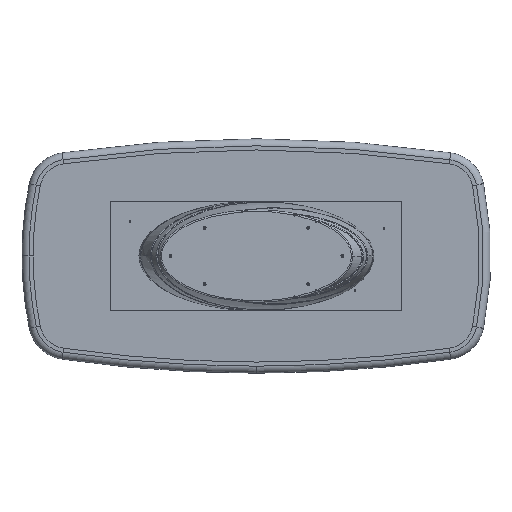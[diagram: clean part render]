
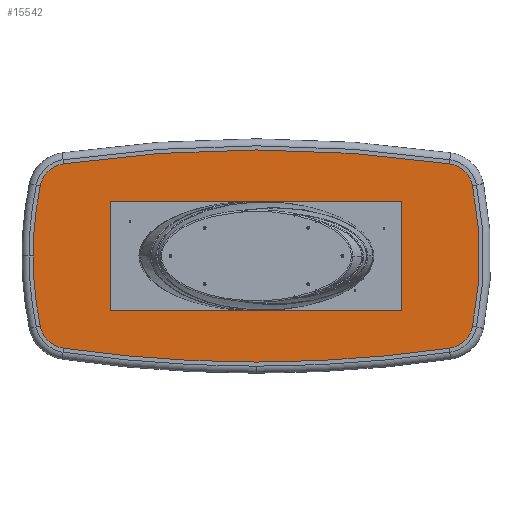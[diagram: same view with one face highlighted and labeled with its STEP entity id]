
A CAD part, front view. The second image highlights one B-rep face of the part: STEP entity #15542.
In plain terms, the highlighted planar face has unit normal (0, -1, 0).
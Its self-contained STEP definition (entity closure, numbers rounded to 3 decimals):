
#647 = DIRECTION ( 'NONE',  ( 0., 1., 0. ) ) ;
#916 = CARTESIAN_POINT ( 'NONE',  ( -645., 40., 0. ) ) ;
#2751 = AXIS2_PLACEMENT_3D ( 'NONE', #27108, #25122, #19395 ) ;
#2790 = CARTESIAN_POINT ( 'NONE',  ( 1106.552, 40., -359.178 ) ) ;
#3054 = DIRECTION ( 'NONE',  ( 0., 0., 1. ) ) ;
#3294 = VERTEX_POINT ( 'NONE', #13138 ) ;
#4020 = EDGE_CURVE ( 'NONE', #28726, #9384, #12694, .T. ) ;
#4664 = CIRCLE ( 'NONE', #26707, 6893. ) ;
#5705 = ORIENTED_EDGE ( 'NONE', *, *, #24886, .F. ) ;
#5882 = VERTEX_POINT ( 'NONE', #31958 ) ;
#5959 = VERTEX_POINT ( 'NONE', #7698 ) ;
#6086 = ORIENTED_EDGE ( 'NONE', *, *, #37110, .F. ) ;
#6197 = EDGE_CURVE ( 'NONE', #3294, #25679, #22787, .T. ) ;
#7210 = DIRECTION ( 'NONE',  ( 0., 0., 1. ) ) ;
#7698 = CARTESIAN_POINT ( 'NONE',  ( 0., 40., -543. ) ) ;
#7790 = VERTEX_POINT ( 'NONE', #30576 ) ;
#8080 = DIRECTION ( 'NONE',  ( 0., 0., 1. ) ) ;
#8511 = VERTEX_POINT ( 'NONE', #25201 ) ;
#9384 = VERTEX_POINT ( 'NONE', #24569 ) ;
#9799 = ORIENTED_EDGE ( 'NONE', *, *, #16134, .F. ) ;
#10028 = DIRECTION ( 'NONE',  ( 0., 0., 1. ) ) ;
#10298 = DIRECTION ( 'NONE',  ( 0., 0., 1. ) ) ;
#10830 = DIRECTION ( 'NONE',  ( 0., 1., 0. ) ) ;
#11153 = CARTESIAN_POINT ( 'NONE',  ( -986.942, 40., 471.979 ) ) ;
#11550 = CARTESIAN_POINT ( 'NONE',  ( -986.942, 40., -471.979 ) ) ;
#11672 = AXIS2_PLACEMENT_3D ( 'NONE', #25669, #19358, #19942 ) ;
#11837 = ORIENTED_EDGE ( 'NONE', *, *, #15139, .F. ) ;
#12662 = ORIENTED_EDGE ( 'NONE', *, *, #21149, .F. ) ;
#12694 = CIRCLE ( 'NONE', #37864, 143. ) ;
#12996 = CARTESIAN_POINT ( 'NONE',  ( -966.467, 40., 330.452 ) ) ;
#13128 = DIRECTION ( 'NONE',  ( 0., 1., 0. ) ) ;
#13138 = CARTESIAN_POINT ( 'NONE',  ( -1106.552, 40., 359.178 ) ) ;
#14003 = ORIENTED_EDGE ( 'NONE', *, *, #35152, .F. ) ;
#14348 = CARTESIAN_POINT ( 'NONE',  ( 966.467, 40., 330.452 ) ) ;
#14770 = CARTESIAN_POINT ( 'NONE',  ( -966.467, 40., -330.452 ) ) ;
#15139 = EDGE_CURVE ( 'NONE', #5959, #28726, #20976, .T. ) ;
#15271 = DIRECTION ( 'NONE',  ( 0., 1., 0. ) ) ;
#15449 = CARTESIAN_POINT ( 'NONE',  ( 645., 40., 0. ) ) ;
#15497 = DIRECTION ( 'NONE',  ( 0., 1., 0. ) ) ;
#15508 = ORIENTED_EDGE ( 'NONE', *, *, #4020, .F. ) ;
#15542 = ADVANCED_FACE ( 'NONE', ( #35993 ), #21183, .F. ) ;
#15636 = CARTESIAN_POINT ( 'NONE',  ( 966.467, 40., -330.452 ) ) ;
#16018 = CARTESIAN_POINT ( 'NONE',  ( 0., 40., 6350. ) ) ;
#16058 = CIRCLE ( 'NONE', #24895, 143. ) ;
#16134 = EDGE_CURVE ( 'NONE', #5882, #21341, #18481, .T. ) ;
#16717 = CIRCLE ( 'NONE', #11672, 1788. ) ;
#18346 = CARTESIAN_POINT ( 'NONE',  ( 1106.552, 40., 359.178 ) ) ;
#18411 = VERTEX_POINT ( 'NONE', #2790 ) ;
#18481 = CIRCLE ( 'NONE', #34885, 143. ) ;
#18990 = DIRECTION ( 'NONE',  ( 0., 0., 1. ) ) ;
#19358 = DIRECTION ( 'NONE',  ( 0., 1., 0. ) ) ;
#19395 = DIRECTION ( 'NONE',  ( 0., 0., 1. ) ) ;
#19942 = DIRECTION ( 'NONE',  ( 0., 0., 1. ) ) ;
#20976 = CIRCLE ( 'NONE', #38002, 6893. ) ;
#21149 = EDGE_CURVE ( 'NONE', #8511, #5959, #4664, .T. ) ;
#21183 = PLANE ( 'NONE',  #2751 ) ;
#21341 = VERTEX_POINT ( 'NONE', #18346 ) ;
#21744 = DIRECTION ( 'NONE',  ( 0., -1., 0. ) ) ;
#22787 = CIRCLE ( 'NONE', #36656, 143. ) ;
#23165 = EDGE_LOOP ( 'NONE', ( #36285, #9799, #5705, #31323, #23780, #14003, #15508, #11837, #12662, #6086 ) ) ;
#23780 = ORIENTED_EDGE ( 'NONE', *, *, #31434, .T. ) ;
#24216 = CIRCLE ( 'NONE', #29264, 1788. ) ;
#24569 = CARTESIAN_POINT ( 'NONE',  ( -1106.552, 40., -359.178 ) ) ;
#24886 = EDGE_CURVE ( 'NONE', #25679, #5882, #27292, .T. ) ;
#24895 = AXIS2_PLACEMENT_3D ( 'NONE', #15636, #33795, #33200 ) ;
#25015 = DIRECTION ( 'NONE',  ( 0., 1., 0. ) ) ;
#25122 = DIRECTION ( 'NONE',  ( 0., 1., 0. ) ) ;
#25201 = CARTESIAN_POINT ( 'NONE',  ( 986.942, 40., -471.979 ) ) ;
#25669 = CARTESIAN_POINT ( 'NONE',  ( 645., 40., 0. ) ) ;
#25679 = VERTEX_POINT ( 'NONE', #11153 ) ;
#26092 = AXIS2_PLACEMENT_3D ( 'NONE', #15449, #21744, #18990 ) ;
#26707 = AXIS2_PLACEMENT_3D ( 'NONE', #16018, #647, #10298 ) ;
#27108 = CARTESIAN_POINT ( 'NONE',  ( 160.734, 40., -165.226 ) ) ;
#27292 = CIRCLE ( 'NONE', #32951, 6893. ) ;
#28726 = VERTEX_POINT ( 'NONE', #11550 ) ;
#29264 = AXIS2_PLACEMENT_3D ( 'NONE', #916, #13128, #7210 ) ;
#30576 = CARTESIAN_POINT ( 'NONE',  ( -1143., 40., 0. ) ) ;
#31323 = ORIENTED_EDGE ( 'NONE', *, *, #6197, .F. ) ;
#31434 = EDGE_CURVE ( 'NONE', #3294, #7790, #37446, .T. ) ;
#31927 = DIRECTION ( 'NONE',  ( 0., 0., 1. ) ) ;
#31958 = CARTESIAN_POINT ( 'NONE',  ( 986.942, 40., 471.979 ) ) ;
#32713 = DIRECTION ( 'NONE',  ( 0., 1., 0. ) ) ;
#32831 = CARTESIAN_POINT ( 'NONE',  ( 0., 40., 6350. ) ) ;
#32951 = AXIS2_PLACEMENT_3D ( 'NONE', #36223, #15497, #33649 ) ;
#33200 = DIRECTION ( 'NONE',  ( 0., 0., 1. ) ) ;
#33649 = DIRECTION ( 'NONE',  ( 0., 0., 1. ) ) ;
#33795 = DIRECTION ( 'NONE',  ( 0., 1., 0. ) ) ;
#34349 = EDGE_CURVE ( 'NONE', #21341, #18411, #24216, .T. ) ;
#34885 = AXIS2_PLACEMENT_3D ( 'NONE', #14348, #10830, #31927 ) ;
#35152 = EDGE_CURVE ( 'NONE', #9384, #7790, #16717, .T. ) ;
#35993 = FACE_OUTER_BOUND ( 'NONE', #23165, .T. ) ;
#36223 = CARTESIAN_POINT ( 'NONE',  ( 0., 40., -6350. ) ) ;
#36285 = ORIENTED_EDGE ( 'NONE', *, *, #34349, .F. ) ;
#36656 = AXIS2_PLACEMENT_3D ( 'NONE', #12996, #25015, #10028 ) ;
#37110 = EDGE_CURVE ( 'NONE', #18411, #8511, #16058, .T. ) ;
#37446 = CIRCLE ( 'NONE', #26092, 1788. ) ;
#37864 = AXIS2_PLACEMENT_3D ( 'NONE', #14770, #32713, #8080 ) ;
#38002 = AXIS2_PLACEMENT_3D ( 'NONE', #32831, #15271, #3054 ) ;
